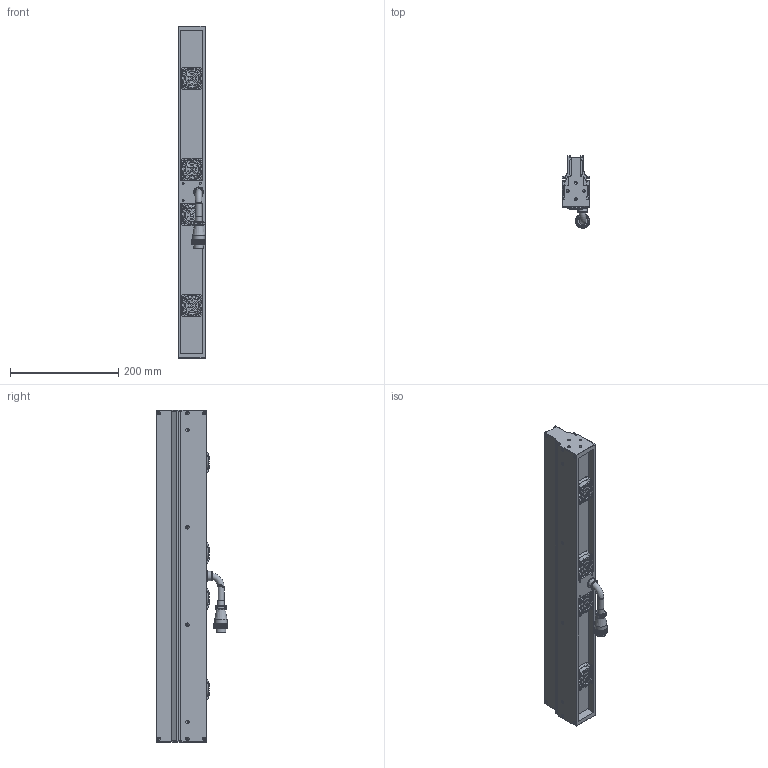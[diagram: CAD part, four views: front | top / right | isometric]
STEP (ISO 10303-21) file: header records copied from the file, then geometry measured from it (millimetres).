
FILE_DESCRIPTION (( 'STEP AP203' ), '1' );
FILE_NAME ('OPT-LSS614-R-V3.1尨砩芞.STEP', '2025-01-21T06:02:46', ( 'USER' ), ( '' ), 'SwSTEP 2.0', 'SolidWorks 2016', '' );
FILE_SCHEMA (( 'CONFIG_CONTROL_DESIGN' ));
Products named in the file (2): OPT-LSS614-R-V3.1尨砩芞
Bounding box: 50.6 x 133 x 614 mm (x, y, z)
Volume: 2048709.1 mm3; surface area: 307366.8 mm2
Topology: 21 solids, 29 shells, 2750 faces, 7049 edges, 4455 vertices
Faces by surface type: bspline 1051, cylinder 819, plane 593, torus 232, cone 55
Full cylindrical faces by diameter (mm): 1 x2, 1.1 x2, 1.4 x2, 1.6 x16, 2 x4, 2.5 x24, 3 x4, 3.2 x20, 3.4 x20, 3.5 x4, 5 x8, 6.2 x16, 8 x1, 11.6 x1, 11.7 x3, 12 x1, 15 x1, 15.9 x1, 17.5 x1, 18 x1, 18.5 x1, 22.8 x1, 24 x1, 24.8 x4, 38 x4
Entity records: 103673 total; most frequent: CARTESIAN_POINT 49029, ORIENTED_EDGE 13346, DIRECTION 7268, EDGE_CURVE 6673, VERTEX_POINT 4370, B_SPLINE_CURVE_WITH_KNOTS 4077, EDGE_LOOP 3181, AXIS2_PLACEMENT_3D 2979
